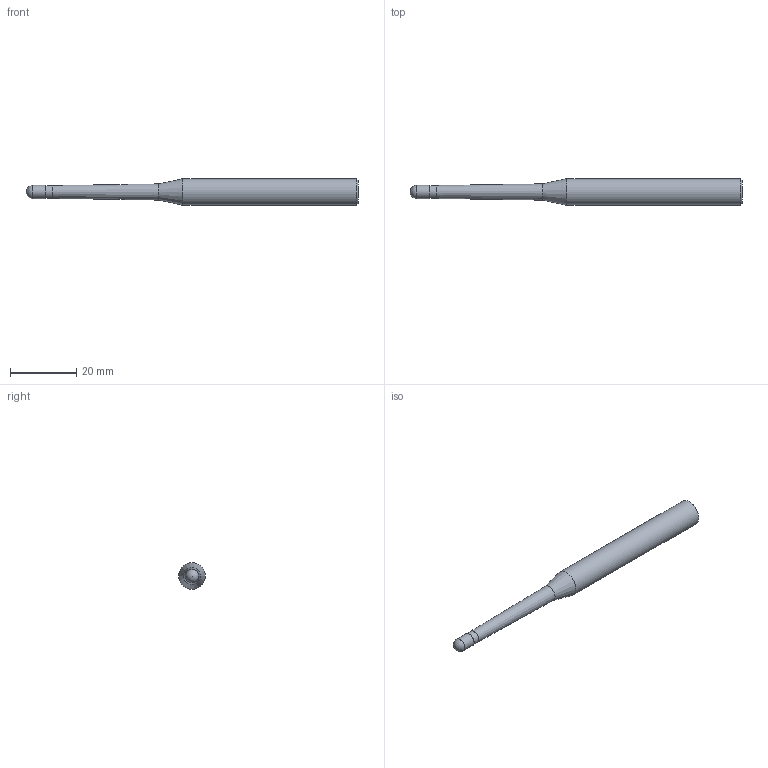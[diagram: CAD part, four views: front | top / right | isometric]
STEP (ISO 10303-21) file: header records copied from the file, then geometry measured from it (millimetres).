
FILE_DESCRIPTION(/* description */ (''),/* implementation_level */ '2;1');
FILE_NAME(/* name */ 'HGXPB2040-40-T0.9 08100.stp',/* time_stamp */ '2026-01-23T15:59:25+08:00',/* author */ (''),/* organization */ (''),/* preprocessor_version */ 'ST-DEVELOPER v16',/* originating_system */ 'SIEMENS PLM Software NX 10.0',/* authorisation */ '');
FILE_SCHEMA (('CONFIG_CONTROL_DESIGN'));
Length unit declared in the file: millimetre
Products named in the file (1): HGXPB2040-40-T0.9 08100_dxf
Bounding box: 100 x 8 x 8 mm (x, y, z)
Volume: 3470.9 mm3; surface area: 2063.2 mm2
Topology: 1 solids, 1 shells, 9 faces, 17 edges, 10 vertices
Faces by surface type: cylinder 3, cone 3, plane 2, sphere 1
Full cylindrical faces by diameter (mm): 3.9 x1, 4 x1, 8 x1
Entity records: 258 total; most frequent: DIRECTION 36, CARTESIAN_POINT 26, AXIS2_PLACEMENT_3D 18, EDGE_LOOP 16, ORIENTED_EDGE 16, FACE_BOUND 14, ADVANCED_FACE 9, VERTEX_POINT 8
